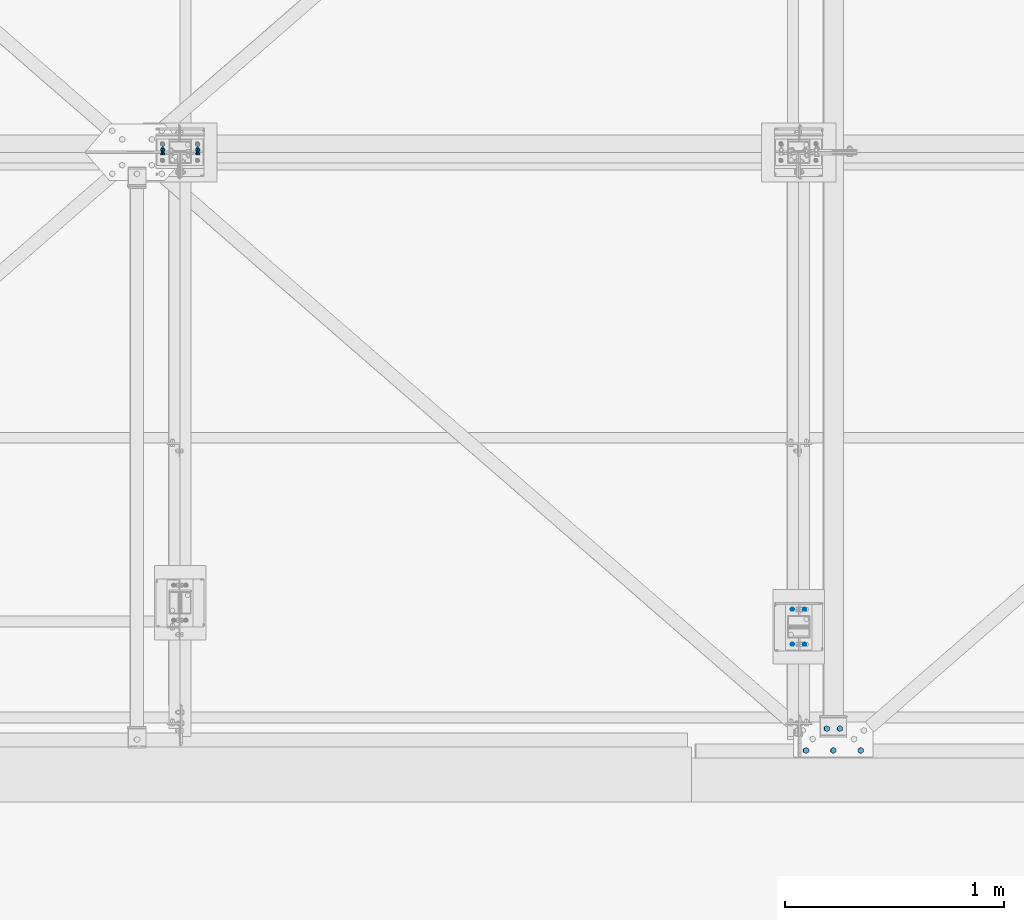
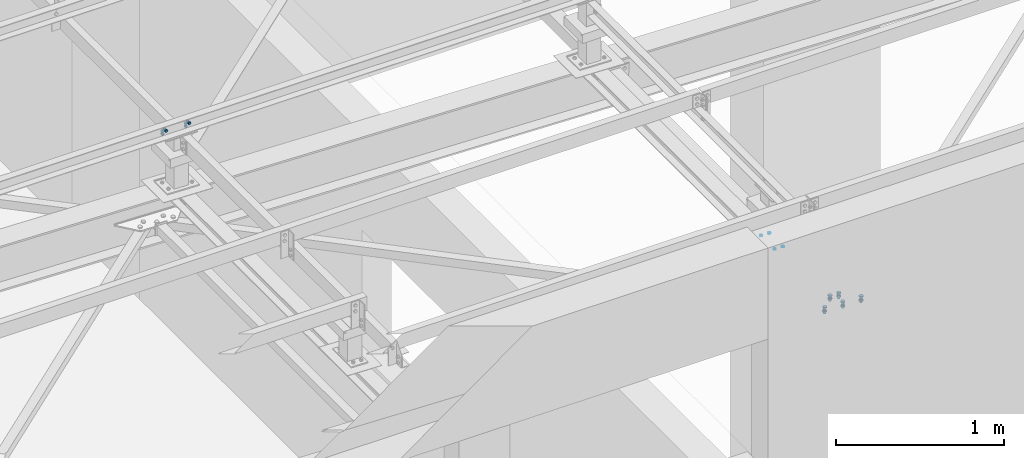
# One storey, part 226 of 3134: 5 mechanical fasteners, 4 elements without a shape of their own.
"""IFC2X3 building model written with IfcOpenShell, lengths in millimetres."""

from ifc_helpers import new_model, si_unit, frame, origin_with_axes, place, context, subcontext, project, spatial, faceted_brep, source, transform, mapped, material, type_object, element, aggregate, save


model = new_model("IFC2X3")

# Units and contexts
model_context = context("Model", 3, precision=1e-05, world=origin_with_axes())
body_context = subcontext(model_context, "Body", "Model", "MODEL_VIEW")
ifc_project = project(units=[si_unit("LENGTHUNIT", "METRE", prefix="MILLI"), si_unit("AREAUNIT", "SQUARE_METRE"), si_unit("VOLUMEUNIT", "CUBIC_METRE"), si_unit("MASSUNIT", "GRAM", prefix="KILO"), si_unit("TIMEUNIT", "SECOND"), si_unit("PLANEANGLEUNIT", "RADIAN"), si_unit("SOLIDANGLEUNIT", "STERADIAN"), si_unit("THERMODYNAMICTEMPERATUREUNIT", "DEGREE_CELSIUS"), si_unit("LUMINOUSINTENSITYUNIT", "LUMEN")], contexts=[model_context])

# Site, building, storey
site_placement = place(None, origin_with_axes())
site = spatial("IfcSite", under=ifc_project, at=site_placement, CompositionType="ELEMENT")
building_placement = place(site_placement, origin_with_axes())
building = spatial("IfcBuilding", under=site, at=building_placement, Name="Undefined", CompositionType="ELEMENT")
storey_placement = place(building_placement, origin_with_axes())
storey = spatial("IfcBuildingStorey", under=building, at=storey_placement, Name="Undefined", CompositionType="ELEMENT", Elevation=0.0)

# Assembly, mechanical fastener
assembly_1_placement = place(storey_placement, origin_with_axes())
assembly_1 = element("IfcElementAssembly", 1, at=assembly_1_placement, inside=storey, AssemblyPlace="NOTDEFINED", PredefinedType="RIGID_FRAME")
ifc_material = material(Name="8.8")
mechanical_fastener_type = type_object("IfcMechanicalFastenerType", Name="Bolt assembly")
shared_shape_1 = source(origin_with_axes(), body_context, "Body", "Brep", [
    faceted_brep([(10.9696551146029, -14.0, 0.0), (5.48482755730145, -14.0, 9.5), (-5.48482755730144, -14.0, 9.5), (-10.9696551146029, -14.0, 1.34339530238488e-15), (-5.48482755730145, -14.0, -9.5), (5.48482755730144, -14.0, -9.50000000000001), (5.48482755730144, -6.0, -9.50000000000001), (-5.48482755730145, -6.0, -9.5), (-10.9696551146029, -6.0, 1.34339530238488e-15), (-5.48482755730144, -6.0, 9.5), (5.48482755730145, -6.0, 9.5), (10.9696551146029, -6.0, 0.0), (6.0, -6.0, 0.0), (5.19615242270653, -6.0, 3.00000000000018), (2.99999999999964, -6.0, 5.19615242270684), (-6.21801588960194e-13, -6.0, 6.0), (-3.00000000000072, -6.0, 5.19615242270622), (-5.19615242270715, -6.0, 2.9999999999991), (-6.0, -6.0, -1.24360317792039e-12), (-5.19615242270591, -6.0, -3.00000000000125), (-2.99999999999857, -6.0, -5.19615242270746), (1.85874342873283e-12, -6.0, -6.0), (3.00000000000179, -6.0, -5.1961524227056), (5.19615242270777, -6.0, -2.99999999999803), (5.19615242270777, 24.0, -2.99999999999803), (3.00000000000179, 24.0, -5.1961524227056), (1.85874342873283e-12, 24.0, -6.0), (-2.99999999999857, 24.0, -5.19615242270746), (-5.19615242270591, 24.0, -3.00000000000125), (-6.0, 24.0, -1.24360317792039e-12), (-5.19615242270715, 24.0, 2.9999999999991), (-3.00000000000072, 24.0, 5.19615242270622), (-6.21801588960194e-13, 24.0, 6.0), (2.99999999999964, 24.0, 5.19615242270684), (5.19615242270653, 24.0, 3.00000000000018), (6.0, 24.0, 0.0), (10.9696551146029, 6.00000000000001, 0.0), (5.48482755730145, 6.00000000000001, 9.5), (-5.48482755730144, 6.00000000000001, 9.5), (-10.9696551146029, 6.00000000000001, 1.34339530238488e-15), (-5.48482755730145, 6.00000000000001, -9.5), (5.48482755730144, 6.00000000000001, -9.50000000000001), (5.48482755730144, 16.0, -9.50000000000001), (-5.48482755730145, 16.0, -9.5), (-10.9696551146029, 16.0, 1.34339530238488e-15), (-5.48482755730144, 16.0, 9.5), (5.48482755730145, 16.0, 9.5), (10.9696551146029, 16.0, 0.0)], [[[0, 1, 2, 3, 4, 5]], [[6, 7, 8, 9, 10, 11]], [[0, 11, 10, 1]], [[1, 10, 9, 2]], [[2, 9, 8, 3]], [[3, 8, 7, 4]], [[4, 7, 6, 5]], [[5, 6, 11, 0]], [[12, 13, 14, 15, 16, 17, 18, 19, 20, 21, 22, 23]], [[24, 25, 26, 27, 28, 29, 30, 31, 32, 33, 34, 35]], [[12, 35, 34, 13]], [[13, 34, 33, 14]], [[14, 33, 32, 15]], [[15, 32, 31, 16]], [[16, 31, 30, 17]], [[17, 30, 29, 18]], [[18, 29, 28, 19]], [[19, 28, 27, 20]], [[20, 27, 26, 21]], [[21, 26, 25, 22]], [[22, 25, 24, 23]], [[23, 24, 35, 12]], [[36, 37, 38, 39, 40, 41]], [[42, 43, 44, 45, 46, 47]], [[36, 47, 46, 37]], [[37, 46, 45, 38]], [[38, 45, 44, 39]], [[39, 44, 43, 40]], [[40, 43, 42, 41]], [[41, 42, 47, 36]]]),
    faceted_brep([(7.0, -0.1, 0.0), (6.06217782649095, -0.1, 3.50000000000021), (3.49999999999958, -0.1, 6.06217782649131), (-7.25435187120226e-13, -0.1, 7.0), (-3.50000000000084, -0.1, 6.06217782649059), (-6.06217782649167, -0.1, 3.49999999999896), (-7.0, -0.1, -1.45087037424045e-12), (-6.06217782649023, -0.1, -3.50000000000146), (-3.49999999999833, -0.1, -6.06217782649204), (2.1685340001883e-12, -0.1, -7.0), (3.50000000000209, -0.1, -6.06217782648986), (6.0621778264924, -0.1, -3.4999999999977), (6.0621778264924, 6.00000000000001, -3.4999999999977), (3.50000000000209, 6.00000000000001, -6.06217782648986), (2.1685340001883e-12, 6.00000000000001, -7.0), (-3.49999999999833, 6.00000000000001, -6.06217782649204), (-6.06217782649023, 6.00000000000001, -3.50000000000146), (-7.0, 6.00000000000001, -1.45087037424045e-12), (-6.06217782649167, 6.00000000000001, 3.49999999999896), (-3.50000000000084, 6.00000000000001, 6.06217782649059), (-7.25435187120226e-13, 6.00000000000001, 7.0), (3.49999999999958, 6.00000000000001, 6.06217782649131), (6.06217782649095, 6.00000000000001, 3.50000000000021), (7.0, 6.00000000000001, 0.0), (7.0, -5.9, 0.0), (6.06217782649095, -5.9, 3.50000000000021), (3.49999999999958, -5.9, 6.06217782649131), (-7.25435187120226e-13, -5.9, 7.0), (-3.50000000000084, -5.9, 6.06217782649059), (-6.06217782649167, -5.9, 3.49999999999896), (-7.0, -5.9, -1.45087037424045e-12), (-6.06217782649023, -5.9, -3.50000000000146), (-3.49999999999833, -5.9, -6.06217782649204), (2.1685340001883e-12, -5.9, -7.0), (3.50000000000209, -5.9, -6.06217782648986), (6.0621778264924, -5.9, -3.4999999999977), (6.0621778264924, 0.0999999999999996, -3.4999999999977), (3.50000000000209, 0.0999999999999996, -6.06217782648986), (2.1685340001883e-12, 0.0999999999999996, -7.0), (-3.49999999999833, 0.0999999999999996, -6.06217782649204), (-6.06217782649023, 0.0999999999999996, -3.50000000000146), (-7.0, 0.0999999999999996, -1.45087037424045e-12), (-6.06217782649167, 0.0999999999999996, 3.49999999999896), (-3.50000000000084, 0.0999999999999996, 6.06217782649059), (-7.25435187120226e-13, 0.0999999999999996, 7.0), (3.49999999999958, 0.0999999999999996, 6.06217782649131), (6.06217782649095, 0.0999999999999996, 3.50000000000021), (7.0, 0.0999999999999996, 0.0)], [[[0, 1, 2, 3, 4, 5, 6, 7, 8, 9, 10, 11]], [[12, 13, 14, 15, 16, 17, 18, 19, 20, 21, 22, 23]], [[0, 23, 22, 1]], [[1, 22, 21, 2]], [[2, 21, 20, 3]], [[3, 20, 19, 4]], [[4, 19, 18, 5]], [[5, 18, 17, 6]], [[6, 17, 16, 7]], [[7, 16, 15, 8]], [[8, 15, 14, 9]], [[9, 14, 13, 10]], [[10, 13, 12, 11]], [[11, 12, 23, 0]], [[24, 25, 26, 27, 28, 29, 30, 31, 32, 33, 34, 35]], [[36, 37, 38, 39, 40, 41, 42, 43, 44, 45, 46, 47]], [[24, 47, 46, 25]], [[25, 46, 45, 26]], [[26, 45, 44, 27]], [[27, 44, 43, 28]], [[28, 43, 42, 29]], [[29, 42, 41, 30]], [[30, 41, 40, 31]], [[31, 40, 39, 32]], [[32, 39, 38, 33]], [[33, 38, 37, 34]], [[34, 37, 36, 35]], [[35, 36, 47, 24]]]),
])
mechanical_fastener_1_placement = place(assembly_1_placement, frame((23191.0, 52725.0, 10865.0), z_axis=(1.0, 0.0, 0.0), x_axis=(0.0, -1.0, 0.0)))
mechanical_fastener_1 = element("IfcMechanicalFastener", 2, at=mechanical_fastener_1_placement, type_object=mechanical_fastener_type, material=ifc_material, Name="Bolt assembly", NominalDiameter=12.0, NominalLength=30.0, context=body_context, shape_type="MappedRepresentation", body=[
    mapped(shared_shape_1, transform((0.0, -5.32963895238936e-10, -79.9999999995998))),
    mapped(shared_shape_1, transform((0.0, 5.3114490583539e-10, 79.9999999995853))),
])

assembly_2_placement = place(storey_placement, origin_with_axes())
assembly_2 = element("IfcElementAssembly", 3, at=assembly_2_placement, inside=storey, AssemblyPlace="NOTDEFINED", PredefinedType="RIGID_FRAME")
shared_shape_2 = source(origin_with_axes(), body_context, "Body", "Brep", [
    faceted_brep([(7.0, 13.0000253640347, 0.0), (6.06217782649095, 13.0000253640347, 3.50000000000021), (3.49999999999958, 13.0000253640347, 6.06217782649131), (-7.25435187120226e-13, 13.0000253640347, 7.0), (-3.50000000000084, 13.0000253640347, 6.06217782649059), (-6.06217782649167, 13.0000253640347, 3.49999999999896), (-7.0, 13.0000253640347, -1.45087037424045e-12), (-6.06217782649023, 13.0000253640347, -3.50000000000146), (-3.49999999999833, 13.0000253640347, -6.06217782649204), (2.1685340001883e-12, 13.0000253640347, -7.0), (3.50000000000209, 13.0000253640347, -6.06217782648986), (6.0621778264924, 13.0000253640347, -3.4999999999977), (6.0621778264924, 15.0999999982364, -3.4999999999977), (3.50000000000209, 15.0999999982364, -6.06217782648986), (2.1685340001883e-12, 15.0999999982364, -7.0), (-3.49999999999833, 15.0999999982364, -6.06217782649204), (-6.06217782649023, 15.0999999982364, -3.50000000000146), (-7.0, 15.0999999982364, -1.45087037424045e-12), (-6.06217782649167, 15.0999999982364, 3.49999999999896), (-3.50000000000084, 15.0999999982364, 6.06217782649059), (-7.25435187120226e-13, 15.0999999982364, 7.0), (3.49999999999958, 15.0999999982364, 6.06217782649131), (6.06217782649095, 15.0999999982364, 3.50000000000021), (7.0, 15.0999999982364, 0.0)], [[[0, 1, 2, 3, 4, 5, 6, 7, 8, 9, 10, 11]], [[12, 13, 14, 15, 16, 17, 18, 19, 20, 21, 22, 23]], [[0, 23, 22, 1]], [[1, 22, 21, 2]], [[2, 21, 20, 3]], [[3, 20, 19, 4]], [[4, 19, 18, 5]], [[5, 18, 17, 6]], [[6, 17, 16, 7]], [[7, 16, 15, 8]], [[8, 15, 14, 9]], [[9, 14, 13, 10]], [[10, 13, 12, 11]], [[11, 12, 23, 0]]]),
])
mechanical_fastener_2_placement = place(assembly_2_placement, frame((25990.360203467, 50520.0016352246, 10380.3949309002), z_axis=(0.0, -1.0, 0.0), x_axis=(0.999519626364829, 0.0, -0.030992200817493)))
mechanical_fastener_2 = element("IfcMechanicalFastener", 4, at=mechanical_fastener_2_placement, type_object=mechanical_fastener_type, material=ifc_material, Name="Bolt assembly", NominalDiameter=12.0, NominalLength=2.0, context=body_context, shape_type="MappedRepresentation", body=[
    mapped(shared_shape_2, transform((0.0, 5.3114490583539e-10, 79.9999999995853))),
    mapped(shared_shape_2, transform((55.9999999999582, 4.54747350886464e-13, 80.0))),
    mapped(shared_shape_2, transform((0.0, -5.32963895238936e-10, -79.9999999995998))),
    mapped(shared_shape_2, transform((55.9999999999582, 4.54747350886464e-13, -80.0))),
])
aggregate(assembly_2, [mechanical_fastener_2])

# Mechanical fastener
shared_shape_3 = source(origin_with_axes(), body_context, "Body", "Brep", [
    faceted_brep([(10.9696551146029, -12.0, 0.0), (5.48482755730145, -12.0, 9.5), (-5.48482755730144, -12.0, 9.5), (-10.9696551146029, -12.0, 1.34339530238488e-15), (-5.48482755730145, -12.0, -9.5), (5.48482755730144, -12.0, -9.50000000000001), (5.48482755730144, -4.0, -9.50000000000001), (-5.48482755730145, -4.0, -9.5), (-10.9696551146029, -4.0, 1.34339530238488e-15), (-5.48482755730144, -4.0, 9.5), (5.48482755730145, -4.0, 9.5), (10.9696551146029, -4.0, 0.0), (6.0, -4.0, 0.0), (5.19615242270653, -4.0, 3.00000000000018), (2.99999999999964, -4.0, 5.19615242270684), (-6.21801588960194e-13, -4.0, 6.0), (-3.00000000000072, -4.0, 5.19615242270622), (-5.19615242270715, -4.0, 2.9999999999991), (-6.0, -4.0, -1.24360317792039e-12), (-5.19615242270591, -4.0, -3.00000000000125), (-2.99999999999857, -4.0, -5.19615242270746), (1.85874342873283e-12, -4.0, -6.0), (3.00000000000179, -4.0, -5.1961524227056), (5.19615242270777, -4.0, -2.99999999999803), (5.19615242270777, 21.0, -2.99999999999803), (3.00000000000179, 21.0, -5.1961524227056), (1.85874342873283e-12, 21.0, -6.0), (-2.99999999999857, 21.0, -5.19615242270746), (-5.19615242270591, 21.0, -3.00000000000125), (-6.0, 21.0, -1.24360317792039e-12), (-5.19615242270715, 21.0, 2.9999999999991), (-3.00000000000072, 21.0, 5.19615242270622), (-6.21801588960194e-13, 21.0, 6.0), (2.99999999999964, 21.0, 5.19615242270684), (5.19615242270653, 21.0, 3.00000000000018), (6.0, 21.0, 0.0), (10.9696551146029, 6.00000000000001, 0.0), (5.48482755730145, 6.00000000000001, 9.5), (-5.48482755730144, 6.00000000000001, 9.5), (-10.9696551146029, 6.00000000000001, 1.34339530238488e-15), (-5.48482755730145, 6.00000000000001, -9.5), (5.48482755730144, 6.00000000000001, -9.50000000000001), (5.48482755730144, 16.0, -9.50000000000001), (-5.48482755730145, 16.0, -9.5), (-10.9696551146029, 16.0, 1.34339530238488e-15), (-5.48482755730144, 16.0, 9.5), (5.48482755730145, 16.0, 9.5), (10.9696551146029, 16.0, 0.0)], [[[0, 1, 2, 3, 4, 5]], [[6, 7, 8, 9, 10, 11]], [[0, 11, 10, 1]], [[1, 10, 9, 2]], [[2, 9, 8, 3]], [[3, 8, 7, 4]], [[4, 7, 6, 5]], [[5, 6, 11, 0]], [[12, 13, 14, 15, 16, 17, 18, 19, 20, 21, 22, 23]], [[24, 25, 26, 27, 28, 29, 30, 31, 32, 33, 34, 35]], [[12, 35, 34, 13]], [[13, 34, 33, 14]], [[14, 33, 32, 15]], [[15, 32, 31, 16]], [[16, 31, 30, 17]], [[17, 30, 29, 18]], [[18, 29, 28, 19]], [[19, 28, 27, 20]], [[20, 27, 26, 21]], [[21, 26, 25, 22]], [[22, 25, 24, 23]], [[23, 24, 35, 12]], [[36, 37, 38, 39, 40, 41]], [[42, 43, 44, 45, 46, 47]], [[36, 47, 46, 37]], [[37, 46, 45, 38]], [[38, 45, 44, 39]], [[39, 44, 43, 40]], [[40, 43, 42, 41]], [[41, 42, 47, 36]]]),
    faceted_brep([(7.0, -3.9, 0.0), (6.06217782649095, -3.9, 3.50000000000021), (3.49999999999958, -3.9, 6.06217782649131), (-7.25435187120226e-13, -3.9, 7.0), (-3.50000000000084, -3.9, 6.06217782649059), (-6.06217782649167, -3.9, 3.49999999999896), (-7.0, -3.9, -1.45087037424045e-12), (-6.06217782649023, -3.9, -3.50000000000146), (-3.49999999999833, -3.9, -6.06217782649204), (2.1685340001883e-12, -3.9, -7.0), (3.50000000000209, -3.9, -6.06217782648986), (6.0621778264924, -3.9, -3.4999999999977), (6.0621778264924, 0.0999999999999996, -3.4999999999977), (3.50000000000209, 0.0999999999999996, -6.06217782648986), (2.1685340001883e-12, 0.0999999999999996, -7.0), (-3.49999999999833, 0.0999999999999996, -6.06217782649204), (-6.06217782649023, 0.0999999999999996, -3.50000000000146), (-7.0, 0.0999999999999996, -1.45087037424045e-12), (-6.06217782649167, 0.0999999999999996, 3.49999999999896), (-3.50000000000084, 0.0999999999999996, 6.06217782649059), (-7.25435187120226e-13, 0.0999999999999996, 7.0), (3.49999999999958, 0.0999999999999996, 6.06217782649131), (6.06217782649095, 0.0999999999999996, 3.50000000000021), (7.0, 0.0999999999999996, 0.0), (7.0, -0.1, 0.0), (6.06217782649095, -0.1, 3.50000000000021), (3.49999999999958, -0.1, 6.06217782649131), (-7.25435187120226e-13, -0.1, 7.0), (-3.50000000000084, -0.1, 6.06217782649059), (-6.06217782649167, -0.1, 3.49999999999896), (-7.0, -0.1, -1.45087037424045e-12), (-6.06217782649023, -0.1, -3.50000000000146), (-3.49999999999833, -0.1, -6.06217782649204), (2.1685340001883e-12, -0.1, -7.0), (3.50000000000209, -0.1, -6.06217782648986), (6.0621778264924, -0.1, -3.4999999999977), (6.0621778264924, 6.00000000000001, -3.4999999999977), (3.50000000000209, 6.00000000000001, -6.06217782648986), (2.1685340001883e-12, 6.00000000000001, -7.0), (-3.49999999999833, 6.00000000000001, -6.06217782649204), (-6.06217782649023, 6.00000000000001, -3.50000000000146), (-7.0, 6.00000000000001, -1.45087037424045e-12), (-6.06217782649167, 6.00000000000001, 3.49999999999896), (-3.50000000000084, 6.00000000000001, 6.06217782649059), (-7.25435187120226e-13, 6.00000000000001, 7.0), (3.49999999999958, 6.00000000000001, 6.06217782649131), (6.06217782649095, 6.00000000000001, 3.50000000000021), (7.0, 6.00000000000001, 0.0)], [[[0, 1, 2, 3, 4, 5, 6, 7, 8, 9, 10, 11]], [[12, 13, 14, 15, 16, 17, 18, 19, 20, 21, 22, 23]], [[0, 23, 22, 1]], [[1, 22, 21, 2]], [[2, 21, 20, 3]], [[3, 20, 19, 4]], [[4, 19, 18, 5]], [[5, 18, 17, 6]], [[6, 17, 16, 7]], [[7, 16, 15, 8]], [[8, 15, 14, 9]], [[9, 14, 13, 10]], [[10, 13, 12, 11]], [[11, 12, 23, 0]], [[24, 25, 26, 27, 28, 29, 30, 31, 32, 33, 34, 35]], [[36, 37, 38, 39, 40, 41, 42, 43, 44, 45, 46, 47]], [[24, 47, 46, 25]], [[25, 46, 45, 26]], [[26, 45, 44, 27]], [[27, 44, 43, 28]], [[28, 43, 42, 29]], [[29, 42, 41, 30]], [[30, 41, 40, 31]], [[31, 40, 39, 32]], [[32, 39, 38, 33]], [[33, 38, 37, 34]], [[34, 37, 36, 35]], [[35, 36, 47, 24]]]),
])
mechanical_fastener_3_placement = place(assembly_1_placement, frame((23191.0, 52690.0, 10900.0), z_axis=(1.0, 0.0, 0.0), x_axis=(0.0, 0.0, -1.0)))
mechanical_fastener_3 = element("IfcMechanicalFastener", 5, at=mechanical_fastener_3_placement, type_object=mechanical_fastener_type, material=ifc_material, Name="Bolt assembly", NominalDiameter=12.0, NominalLength=25.0, context=body_context, shape_type="MappedRepresentation", body=[
    mapped(shared_shape_3, transform((0.0, -5.32963895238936e-10, -79.9999999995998))),
    mapped(shared_shape_3, transform((0.0, 5.3114490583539e-10, 79.9999999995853))),
])

aggregate(assembly_1, [mechanical_fastener_3, mechanical_fastener_1])

# Assembly, mechanical fastener
assembly_3_placement = place(storey_placement, origin_with_axes())
assembly_3 = element("IfcElementAssembly", 6, at=assembly_3_placement, inside=storey, Name="PL8", AssemblyPlace="NOTDEFINED", PredefinedType="RIGID_FRAME")
shared_shape_4 = source(origin_with_axes(), body_context, "Body", "Brep", [
    faceted_brep([(13.856406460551, -20.5000087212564, 0.0), (6.92820323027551, -20.5000087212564, 12.0), (-6.92820323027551, -20.5000087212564, 12.0), (-13.856406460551, -20.5000087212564, 1.69692038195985e-15), (-6.92820323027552, -20.5000087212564, -12.0), (6.9282032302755, -20.5000087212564, -12.0), (6.9282032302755, -10.5000087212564, -12.0), (-6.92820323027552, -10.5000087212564, -12.0), (-13.856406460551, -10.5000087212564, 1.69692038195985e-15), (-6.92820323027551, -10.5000087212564, 12.0), (6.92820323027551, -10.5000087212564, 12.0), (13.856406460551, -10.5000087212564, 0.0), (8.0, -10.5000087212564, 0.0), (6.92820323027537, -10.5000087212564, 4.00000000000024), (3.99999999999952, -10.5000087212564, 6.92820323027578), (-8.29068785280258e-13, -10.5000087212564, 8.0), (-4.00000000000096, -10.5000087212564, 6.92820323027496), (-6.9282032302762, -10.5000087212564, 3.99999999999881), (-8.0, -10.5000087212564, -1.65813757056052e-12), (-6.92820323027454, -10.5000087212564, -4.00000000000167), (-3.99999999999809, -10.5000087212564, -6.92820323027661), (2.47832457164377e-12, -10.5000087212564, -8.0), (4.00000000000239, -10.5000087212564, -6.92820323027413), (6.92820323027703, -10.5000087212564, -3.99999999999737), (6.92820323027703, 29.4999912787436, -3.99999999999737), (4.00000000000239, 29.4999912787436, -6.92820323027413), (2.47832457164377e-12, 29.4999912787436, -8.0), (-3.99999999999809, 29.4999912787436, -6.92820323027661), (-6.92820323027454, 29.4999912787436, -4.00000000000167), (-8.0, 29.4999912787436, -1.65813757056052e-12), (-6.9282032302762, 29.4999912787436, 3.99999999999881), (-4.00000000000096, 29.4999912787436, 6.92820323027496), (-8.29068785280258e-13, 29.4999912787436, 8.0), (3.99999999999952, 29.4999912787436, 6.92820323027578), (6.92820323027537, 29.4999912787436, 4.00000000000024), (8.0, 29.4999912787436, 0.0), (13.856406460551, 8.00000637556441, 0.0), (6.92820323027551, 8.00000637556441, 12.0), (-6.92820323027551, 8.00000637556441, 12.0), (-13.856406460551, 8.00000637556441, 1.69692038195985e-15), (-6.92820323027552, 8.00000637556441, -12.0), (6.9282032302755, 8.00000637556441, -12.0), (6.9282032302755, 21.0000063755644, -12.0), (-6.92820323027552, 21.0000063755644, -12.0), (-13.856406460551, 21.0000063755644, 1.69692038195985e-15), (-6.92820323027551, 21.0000063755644, 12.0), (6.92820323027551, 21.0000063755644, 12.0), (13.856406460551, 21.0000063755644, 0.0)], [[[0, 1, 2, 3, 4, 5]], [[6, 7, 8, 9, 10, 11]], [[0, 11, 10, 1]], [[1, 10, 9, 2]], [[2, 9, 8, 3]], [[3, 8, 7, 4]], [[4, 7, 6, 5]], [[5, 6, 11, 0]], [[12, 13, 14, 15, 16, 17, 18, 19, 20, 21, 22, 23]], [[24, 25, 26, 27, 28, 29, 30, 31, 32, 33, 34, 35]], [[12, 35, 34, 13]], [[13, 34, 33, 14]], [[14, 33, 32, 15]], [[15, 32, 31, 16]], [[16, 31, 30, 17]], [[17, 30, 29, 18]], [[18, 29, 28, 19]], [[19, 28, 27, 20]], [[20, 27, 26, 21]], [[21, 26, 25, 22]], [[22, 25, 24, 23]], [[23, 24, 35, 12]], [[36, 37, 38, 39, 40, 41]], [[42, 43, 44, 45, 46, 47]], [[36, 47, 46, 37]], [[37, 46, 45, 38]], [[38, 45, 44, 39]], [[39, 44, 43, 40]], [[40, 43, 42, 41]], [[41, 42, 47, 36]]]),
    faceted_brep([(9.0, -10.4000087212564, 0.0), (7.79422863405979, -10.4000087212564, 4.50000000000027), (4.49999999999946, -10.4000087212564, 7.79422863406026), (-9.3270238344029e-13, -10.4000087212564, 9.0), (-4.50000000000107, -10.4000087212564, 7.79422863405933), (-7.79422863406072, -10.4000087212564, 4.49999999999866), (-9.0, -10.4000087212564, -1.86540476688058e-12), (-7.79422863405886, -10.4000087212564, -4.50000000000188), (-4.49999999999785, -10.4000087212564, -7.79422863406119), (2.78811514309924e-12, -10.4000087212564, -9.0), (4.50000000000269, -10.4000087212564, -7.7942286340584), (7.79422863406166, -10.4000087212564, -4.49999999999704), (7.79422863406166, 0.100000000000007, -4.49999999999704), (4.50000000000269, 0.100000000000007, -7.7942286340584), (2.78811514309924e-12, 0.100000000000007, -9.0), (-4.49999999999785, 0.100000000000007, -7.79422863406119), (-7.79422863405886, 0.100000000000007, -4.50000000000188), (-9.0, 0.100000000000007, -1.86540476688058e-12), (-7.79422863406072, 0.100000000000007, 4.49999999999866), (-4.50000000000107, 0.100000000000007, 7.79422863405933), (-9.3270238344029e-13, 0.100000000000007, 9.0), (4.49999999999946, 0.100000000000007, 7.79422863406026), (7.79422863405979, 0.100000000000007, 4.50000000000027), (9.0, 0.100000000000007, 0.0), (9.0, -0.1, 0.0), (7.79422863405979, -0.1, 4.50000000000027), (4.49999999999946, -0.1, 7.79422863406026), (-9.3270238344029e-13, -0.1, 9.0), (-4.50000000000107, -0.1, 7.79422863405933), (-7.79422863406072, -0.1, 4.49999999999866), (-9.0, -0.1, -1.86540476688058e-12), (-7.79422863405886, -0.1, -4.50000000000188), (-4.49999999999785, -0.1, -7.79422863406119), (2.78811514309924e-12, -0.1, -9.0), (4.50000000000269, -0.1, -7.7942286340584), (7.79422863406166, -0.1, -4.49999999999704), (7.79422863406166, 8.00000000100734, -4.49999999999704), (4.50000000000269, 8.00000000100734, -7.7942286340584), (2.78811514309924e-12, 8.00000000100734, -9.0), (-4.49999999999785, 8.00000000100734, -7.79422863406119), (-7.79422863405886, 8.00000000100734, -4.50000000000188), (-9.0, 8.00000000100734, -1.86540476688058e-12), (-7.79422863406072, 8.00000000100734, 4.49999999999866), (-4.50000000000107, 8.00000000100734, 7.79422863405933), (-9.3270238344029e-13, 8.00000000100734, 9.0), (4.49999999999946, 8.00000000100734, 7.79422863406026), (7.79422863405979, 8.00000000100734, 4.50000000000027), (9.0, 8.00000000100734, 0.0)], [[[0, 1, 2, 3, 4, 5, 6, 7, 8, 9, 10, 11]], [[12, 13, 14, 15, 16, 17, 18, 19, 20, 21, 22, 23]], [[0, 23, 22, 1]], [[1, 22, 21, 2]], [[2, 21, 20, 3]], [[3, 20, 19, 4]], [[4, 19, 18, 5]], [[5, 18, 17, 6]], [[6, 17, 16, 7]], [[7, 16, 15, 8]], [[8, 15, 14, 9]], [[9, 14, 13, 10]], [[10, 13, 12, 11]], [[11, 12, 23, 0]], [[24, 25, 26, 27, 28, 29, 30, 31, 32, 33, 34, 35]], [[36, 37, 38, 39, 40, 41, 42, 43, 44, 45, 46, 47]], [[24, 47, 46, 25]], [[25, 46, 45, 26]], [[26, 45, 44, 27]], [[27, 44, 43, 28]], [[28, 43, 42, 29]], [[29, 42, 41, 30]], [[30, 41, 40, 31]], [[31, 40, 39, 32]], [[32, 39, 38, 33]], [[33, 38, 37, 34]], [[34, 37, 36, 35]], [[35, 36, 47, 24]]]),
])
mechanical_fastener_4_placement = place(assembly_3_placement, frame((26177.4963621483, 49955.0013635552, 10227.5307512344), z_axis=(0.999519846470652, 0.0, -0.0309851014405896), x_axis=(0.0, -1.0, 0.0)))
mechanical_fastener_4 = element("IfcMechanicalFastener", 7, at=mechanical_fastener_4_placement, type_object=mechanical_fastener_type, material=ifc_material, Name="Bolt assembly", NominalDiameter=16.0, NominalLength=40.0, context=body_context, shape_type="MappedRepresentation", body=[
    mapped(shared_shape_4, transform((0.0, -4.54747350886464e-10, 125.000000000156))),
    mapped(shared_shape_4, transform((0.0, 0.0, 0.0))),
    mapped(shared_shape_4, transform((0.0, 4.52928361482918e-10, -125.000000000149))),
])
aggregate(assembly_3, [mechanical_fastener_4])

assembly_4_placement = place(storey_placement, origin_with_axes())
assembly_4 = element("IfcElementAssembly", 8, at=assembly_4_placement, inside=storey, AssemblyPlace="NOTDEFINED", PredefinedType="RIGID_FRAME")
shared_shape_5 = source(origin_with_axes(), body_context, "Body", "Brep", [
    faceted_brep([(13.856406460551, -14.0, 0.0), (6.92820323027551, -14.0, 12.0), (-6.92820323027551, -14.0, 12.0), (-13.856406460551, -14.0, 1.69692038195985e-15), (-6.92820323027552, -14.0, -12.0), (6.9282032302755, -14.0, -12.0), (6.9282032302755, -4.00000145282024, -12.0), (-6.92820323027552, -4.00000145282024, -12.0), (-13.856406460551, -4.00000145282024, 1.69692038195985e-15), (-6.92820323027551, -4.00000145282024, 12.0), (6.92820323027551, -4.00000145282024, 12.0), (13.856406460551, -4.00000145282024, 0.0), (8.0, -4.00000145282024, 0.0), (6.92820323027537, -4.00000145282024, 4.00000000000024), (3.99999999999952, -4.00000145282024, 6.92820323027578), (-8.29068785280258e-13, -4.00000145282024, 8.0), (-4.00000000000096, -4.00000145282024, 6.92820323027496), (-6.9282032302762, -4.00000145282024, 3.99999999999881), (-8.0, -4.00000145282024, -1.65813757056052e-12), (-6.92820323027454, -4.00000145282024, -4.00000000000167), (-3.99999999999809, -4.00000145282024, -6.92820323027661), (2.47832457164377e-12, -4.00000145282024, -8.0), (4.00000000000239, -4.00000145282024, -6.92820323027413), (6.92820323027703, -4.00000145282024, -3.99999999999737), (6.92820323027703, 31.0, -3.99999999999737), (4.00000000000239, 31.0, -6.92820323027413), (2.47832457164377e-12, 31.0, -8.0), (-3.99999999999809, 31.0, -6.92820323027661), (-6.92820323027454, 31.0, -4.00000000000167), (-8.0, 31.0, -1.65813757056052e-12), (-6.9282032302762, 31.0, 3.99999999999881), (-4.00000000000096, 31.0, 6.92820323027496), (-8.29068785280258e-13, 31.0, 8.0), (3.99999999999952, 31.0, 6.92820323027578), (6.92820323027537, 31.0, 4.00000000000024), (8.0, 31.0, 0.0), (13.856406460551, 8.00000637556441, 0.0), (6.92820323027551, 8.00000637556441, 12.0), (-6.92820323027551, 8.00000637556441, 12.0), (-13.856406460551, 8.00000637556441, 1.69692038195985e-15), (-6.92820323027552, 8.00000637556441, -12.0), (6.9282032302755, 8.00000637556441, -12.0), (6.9282032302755, 21.0000063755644, -12.0), (-6.92820323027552, 21.0000063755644, -12.0), (-13.856406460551, 21.0000063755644, 1.69692038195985e-15), (-6.92820323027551, 21.0000063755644, 12.0), (6.92820323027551, 21.0000063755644, 12.0), (13.856406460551, 21.0000063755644, 0.0)], [[[0, 1, 2, 3, 4, 5]], [[6, 7, 8, 9, 10, 11]], [[0, 11, 10, 1]], [[1, 10, 9, 2]], [[2, 9, 8, 3]], [[3, 8, 7, 4]], [[4, 7, 6, 5]], [[5, 6, 11, 0]], [[12, 13, 14, 15, 16, 17, 18, 19, 20, 21, 22, 23]], [[24, 25, 26, 27, 28, 29, 30, 31, 32, 33, 34, 35]], [[12, 35, 34, 13]], [[13, 34, 33, 14]], [[14, 33, 32, 15]], [[15, 32, 31, 16]], [[16, 31, 30, 17]], [[17, 30, 29, 18]], [[18, 29, 28, 19]], [[19, 28, 27, 20]], [[20, 27, 26, 21]], [[21, 26, 25, 22]], [[22, 25, 24, 23]], [[23, 24, 35, 12]], [[36, 37, 38, 39, 40, 41]], [[42, 43, 44, 45, 46, 47]], [[36, 47, 46, 37]], [[37, 46, 45, 38]], [[38, 45, 44, 39]], [[39, 44, 43, 40]], [[40, 43, 42, 41]], [[41, 42, 47, 36]]]),
    faceted_brep([(9.0, -0.1, 0.0), (7.79422863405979, -0.1, 4.50000000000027), (4.49999999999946, -0.1, 7.79422863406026), (-9.3270238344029e-13, -0.1, 9.0), (-4.50000000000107, -0.1, 7.79422863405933), (-7.79422863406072, -0.1, 4.49999999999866), (-9.0, -0.1, -1.86540476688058e-12), (-7.79422863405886, -0.1, -4.50000000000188), (-4.49999999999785, -0.1, -7.79422863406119), (2.78811514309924e-12, -0.1, -9.0), (4.50000000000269, -0.1, -7.7942286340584), (7.79422863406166, -0.1, -4.49999999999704), (7.79422863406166, 8.00000000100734, -4.49999999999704), (4.50000000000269, 8.00000000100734, -7.7942286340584), (2.78811514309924e-12, 8.00000000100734, -9.0), (-4.49999999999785, 8.00000000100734, -7.79422863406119), (-7.79422863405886, 8.00000000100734, -4.50000000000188), (-9.0, 8.00000000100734, -1.86540476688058e-12), (-7.79422863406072, 8.00000000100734, 4.49999999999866), (-4.50000000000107, 8.00000000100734, 7.79422863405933), (-9.3270238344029e-13, 8.00000000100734, 9.0), (4.49999999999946, 8.00000000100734, 7.79422863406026), (7.79422863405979, 8.00000000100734, 4.50000000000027), (9.0, 8.00000000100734, 0.0), (9.0, -3.9, 0.0), (7.79422863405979, -3.9, 4.50000000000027), (4.49999999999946, -3.9, 7.79422863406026), (-9.3270238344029e-13, -3.9, 9.0), (-4.50000000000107, -3.9, 7.79422863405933), (-7.79422863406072, -3.9, 4.49999999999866), (-9.0, -3.9, -1.86540476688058e-12), (-7.79422863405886, -3.9, -4.50000000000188), (-4.49999999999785, -3.9, -7.79422863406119), (2.78811514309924e-12, -3.9, -9.0), (4.50000000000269, -3.9, -7.7942286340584), (7.79422863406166, -3.9, -4.49999999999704), (7.79422863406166, 4.09999854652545, -4.49999999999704), (4.50000000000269, 4.09999854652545, -7.7942286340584), (2.78811514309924e-12, 4.09999854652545, -9.0), (-4.49999999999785, 4.09999854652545, -7.79422863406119), (-7.79422863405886, 4.09999854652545, -4.50000000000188), (-9.0, 4.09999854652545, -1.86540476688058e-12), (-7.79422863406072, 4.09999854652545, 4.49999999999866), (-4.50000000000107, 4.09999854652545, 7.79422863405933), (-9.3270238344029e-13, 4.09999854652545, 9.0), (4.49999999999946, 4.09999854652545, 7.79422863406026), (7.79422863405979, 4.09999854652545, 4.50000000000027), (9.0, 4.09999854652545, 0.0)], [[[0, 1, 2, 3, 4, 5, 6, 7, 8, 9, 10, 11]], [[12, 13, 14, 15, 16, 17, 18, 19, 20, 21, 22, 23]], [[0, 23, 22, 1]], [[1, 22, 21, 2]], [[2, 21, 20, 3]], [[3, 20, 19, 4]], [[4, 19, 18, 5]], [[5, 18, 17, 6]], [[6, 17, 16, 7]], [[7, 16, 15, 8]], [[8, 15, 14, 9]], [[9, 14, 13, 10]], [[10, 13, 12, 11]], [[11, 12, 23, 0]], [[24, 25, 26, 27, 28, 29, 30, 31, 32, 33, 34, 35]], [[36, 37, 38, 39, 40, 41, 42, 43, 44, 45, 46, 47]], [[24, 47, 46, 25]], [[25, 46, 45, 26]], [[26, 45, 44, 27]], [[27, 44, 43, 28]], [[28, 43, 42, 29]], [[29, 42, 41, 30]], [[30, 41, 40, 31]], [[31, 40, 39, 32]], [[32, 39, 38, 33]], [[33, 38, 37, 34]], [[34, 37, 36, 35]], [[35, 36, 47, 24]]]),
])
mechanical_fastener_5_placement = place(assembly_4_placement, frame((26177.4963621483, 50055.0013635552, 10227.5307512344), z_axis=(0.999519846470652, 0.0, -0.0309851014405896), x_axis=(0.0, -1.0, 0.0)))
mechanical_fastener_5 = element("IfcMechanicalFastener", 9, at=mechanical_fastener_5_placement, type_object=mechanical_fastener_type, material=ifc_material, Name="Bolt assembly", NominalDiameter=16.0, NominalLength=35.0, context=body_context, shape_type="MappedRepresentation", body=[
    mapped(shared_shape_5, transform((0.0, 4.54747350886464e-13, -30.0000000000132))),
    mapped(shared_shape_5, transform((0.0, 4.54747350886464e-13, 30.0000000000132))),
])
aggregate(assembly_4, [mechanical_fastener_5])

save(model, "model.ifc")
